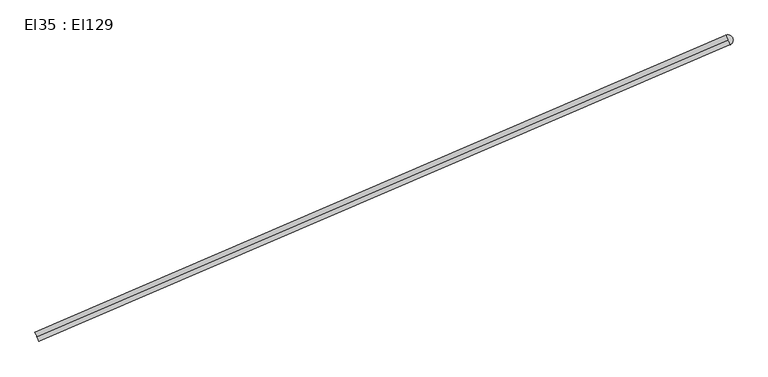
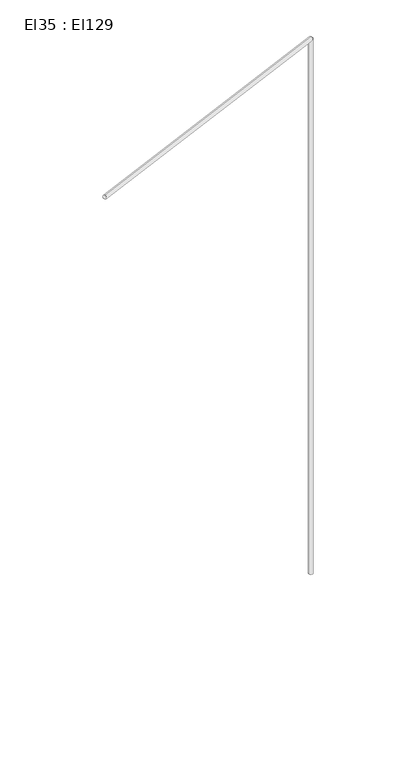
"""IFC4 building model written with IfcOpenShell, lengths in millimetres: cable carrier segment geometry, El35 : El129."""

import ifcopenshell
import ifcopenshell.guid

model = None  # the IFC model being written
_history = None  # IfcOwnerHistory: only IFC2X3 demands one
_inside = {}  # id of a spatial element -> (the spatial element, [elements in it])
_under = {}  # id of a project, library or spatial element -> (it, [spatial elements below it])
_declared = {}  # id of a project -> (the project, [libraries it declares])
_typed = {}  # id of a type object -> (the type object, [elements of that type])
_made_of = {}  # id of a material, layer set ... -> (it, [elements and type objects made of it])


def new_model(schema):
    """Start an empty IFC model of exactly this schema.

    Asked for "IFC4X3", IfcOpenShell would pick the latest addendum, in which some entities
    have other attributes; the version numbers below select the first issue.
    IFC2X3 requires an IfcOwnerHistory on every rooted entity: one is made here for all.
    """
    global model, _history
    if schema == "IFC4X3":
        model = ifcopenshell.file(schema_version=(4, 3, 0, 0))
    else:
        model = ifcopenshell.file(schema=schema)
    _inside.clear()
    _under.clear()
    _declared.clear()
    _typed.clear()
    _made_of.clear()
    _history = None
    if model.schema == "IFC2X3":
        org = make("IfcOrganization", Name="unknown")
        user = make(
            "IfcPersonAndOrganization",
            ThePerson=make("IfcPerson", FamilyName="unknown"),
            TheOrganization=org,
        )
        app = make(
            "IfcApplication",
            ApplicationDeveloper=org,
            Version="unknown",
            ApplicationFullName="unknown",
            ApplicationIdentifier="unknown",
        )
        _history = make(
            "IfcOwnerHistory",
            OwningUser=user,
            OwningApplication=app,
            ChangeAction="ADDED",
            CreationDate=0,
        )
    return model


def make(cls, **values):
    """One entity of the class cls with the attributes given. An attribute that is None is left unset."""
    return model.create_entity(
        cls, **{name: value for name, value in values.items() if value is not None}
    )


def rooted(cls, **values):
    """An entity with a GlobalId (a new one), such as an element, a storey or a relation."""
    return make(cls, GlobalId=ifcopenshell.guid.new(), OwnerHistory=_history, **values)


def si_unit(unit_type, name, prefix=None):
    """IfcSIUnit, for example si_unit("LENGTHUNIT", "METRE", prefix="MILLI")."""
    return make("IfcSIUnit", UnitType=unit_type, Prefix=prefix, Name=name)


def assignment(units):
    """IfcUnitAssignment: the units of a project."""
    return None if units is None else make("IfcUnitAssignment", Units=units)


def point(xyz):
    """IfcCartesianPoint."""
    return None if xyz is None else make("IfcCartesianPoint", Coordinates=xyz)


def direction(xyz):
    """IfcDirection."""
    return None if xyz is None else make("IfcDirection", DirectionRatios=xyz)


def frame(location, z_axis=None, x_axis=None):
    """IfcAxis2Placement3D, a coordinate frame: its origin and axes. An axis left out is left unset."""
    return make(
        "IfcAxis2Placement3D",
        Location=point(location),
        Axis=direction(z_axis),
        RefDirection=direction(x_axis),
    )


def frame_2d(location, x_axis=None):
    """IfcAxis2Placement2D, a coordinate frame in the plane: its origin and x axis."""
    return make(
        "IfcAxis2Placement2D", Location=point(location), RefDirection=direction(x_axis)
    )


def origin():
    """The frame at (0, 0, 0) with its axes left unset."""
    return frame((0.0, 0.0, 0.0))


def place(relative_to, where):
    """IfcLocalPlacement: puts the frame where relative to a parent placement (None: the world)."""
    return make(
        "IfcLocalPlacement", PlacementRelTo=relative_to, RelativePlacement=where
    )


def context(
    kind, dimensions, precision=None, world=None, true_north=None, identifier=None
):
    """IfcGeometricRepresentationContext, for example the 3D "Model" context."""
    return make(
        "IfcGeometricRepresentationContext",
        ContextIdentifier=identifier,
        ContextType=kind,
        CoordinateSpaceDimension=dimensions,
        Precision=precision,
        WorldCoordinateSystem=world,
        TrueNorth=true_north,
    )


def project(units=None, contexts=None):
    """IfcProject with its units and contexts."""
    return rooted(
        "IfcProject",
        Name="project",
        RepresentationContexts=contexts,
        UnitsInContext=assignment(units),
    )


def spatial(cls, under=None, at=None, **own):
    """A site, building, storey or space (cls), placed at a placement, below another one or the project."""
    s = rooted(cls, ObjectPlacement=at, **own)
    if under is not None:
        _under.setdefault(under.id(), (under, []))[1].append(s)
    return s


def circle_curve(where, radius):
    """IfcCircle in the frame where."""
    return make("IfcCircle", Position=where, Radius=radius)


def trimmed(basis, trim1, trim2, sense, master):
    """IfcTrimmedCurve: the piece of a basis curve between two trims."""
    return make(
        "IfcTrimmedCurve",
        BasisCurve=basis,
        Trim1=trim1,
        Trim2=trim2,
        SenseAgreement=sense,
        MasterRepresentation=master,
    )


def segment(curve, same_sense, transition):
    """IfcCompositeCurveSegment."""
    return make(
        "IfcCompositeCurveSegment",
        Transition=transition,
        SameSense=same_sense,
        ParentCurve=curve,
    )


def composite_curve(segments, self_intersect=None):
    """IfcCompositeCurve: segments joined end to end."""
    return make("IfcCompositeCurve", Segments=segments, SelfIntersect=self_intersect)


def outline(outer, holes=None, kind="AREA"):
    """IfcArbitraryClosedProfileDef: a profile drawn as a closed curve; with holes, ...WithVoids."""
    if holes is None:
        return make("IfcArbitraryClosedProfileDef", ProfileType=kind, OuterCurve=outer)
    return make(
        "IfcArbitraryProfileDefWithVoids",
        ProfileType=kind,
        OuterCurve=outer,
        InnerCurves=holes,
    )


def extrude(swept, where, along, depth):
    """IfcExtrudedAreaSolid: the profile swept, set in the frame where, extruded along a direction by depth."""
    return make(
        "IfcExtrudedAreaSolid",
        SweptArea=swept,
        Position=where,
        ExtrudedDirection=direction(along),
        Depth=depth,
    )


def shape(context_of_items, identifier, shape_type, items):
    """IfcShapeRepresentation: the items that make up one representation, for example the "Body"."""
    return make(
        "IfcShapeRepresentation",
        ContextOfItems=context_of_items,
        RepresentationIdentifier=identifier,
        RepresentationType=shape_type,
        Items=items,
    )


def source(mapping_origin, context_of_items, identifier, shape_type, items):
    """IfcRepresentationMap: a shape defined once, which mapped items show again and again."""
    return make(
        "IfcRepresentationMap",
        MappingOrigin=mapping_origin,
        MappedRepresentation=shape(context_of_items, identifier, shape_type, items),
    )


def transform(
    local_origin,
    x_axis=None,
    y_axis=None,
    z_axis=None,
    scale=None,
    scale2=None,
    scale3=None,
    uniform=True,
):
    """IfcCartesianTransformationOperator3D, or its non-uniform kind. x_axis, y_axis, z_axis: its Axis1, 2, 3."""
    if uniform:
        return make(
            "IfcCartesianTransformationOperator3D",
            Axis1=direction(x_axis),
            Axis2=direction(y_axis),
            LocalOrigin=point(local_origin),
            Scale=scale,
            Axis3=direction(z_axis),
        )
    return make(
        "IfcCartesianTransformationOperator3DnonUniform",
        Axis1=direction(x_axis),
        Axis2=direction(y_axis),
        LocalOrigin=point(local_origin),
        Scale=scale,
        Axis3=direction(z_axis),
        Scale2=scale2,
        Scale3=scale3,
    )


def mapped(mapping_source, mapping_target):
    """IfcMappedItem: shows the shape of a source again, moved by a transform."""
    return make(
        "IfcMappedItem", MappingSource=mapping_source, MappingTarget=mapping_target
    )


def made_of(thing, what):
    """Note that an element or type object is made of a material, layer set ...; save() writes the relation."""
    if what is not None:
        _made_of.setdefault(what.id(), (what, []))[1].append(thing)
    return thing


def element(
    cls,
    number,
    at=None,
    inside=None,
    cuts=None,
    type_object=None,
    material=None,
    context=None,
    identifier="Body",
    shape_type=None,
    held_by="IfcProductDefinitionShape",
    body=None,
    shapes=None,
    **own,
):
    """One element of the class cls, such as IfcWall. Its Tag is "e" and its number.

    at: its placement. inside: the storey or other place that contains it. cuts: it is an
    opening in that element (IfcRelVoidsElement). A single representation is given by context,
    identifier, shape_type and body (its items); several are given by shapes. held_by: the class
    of the entity that holds the representations. save() writes the other relations.
    """
    e = rooted(cls, Tag="e%d" % number, ObjectPlacement=at, **own)
    if body is not None:
        shapes = [shape(context, identifier, shape_type, body)]
    if shapes is not None:
        e.Representation = make(held_by, Representations=shapes)
    if inside is not None:
        _inside.setdefault(inside.id(), (inside, []))[1].append(e)
    if cuts is not None:
        rooted(
            "IfcRelVoidsElement", RelatingBuildingElement=cuts, RelatedOpeningElement=e
        )
    if type_object is not None:
        _typed.setdefault(type_object.id(), (type_object, []))[1].append(e)
    return made_of(e, material)


def aggregate(whole, parts):
    """IfcRelAggregates: a whole, such as a stair, and the parts it consists of."""
    return rooted("IfcRelAggregates", RelatingObject=whole, RelatedObjects=parts)


def save(model, path):
    """Write the relations noted so far, then the file.

    IfcRelAggregates (storeys below a building ...), IfcRelContainedInSpatialStructure (elements
    in a storey), IfcRelDefinesByType, IfcRelAssociatesMaterial and IfcRelDeclares: one each for
    every whole, place, type object, material and project.
    """
    for whole, parts in _under.values():
        aggregate(whole, parts)
    for where, things in _inside.values():
        rooted(
            "IfcRelContainedInSpatialStructure",
            RelatedElements=things,
            RelatingStructure=where,
        )
    for kind, things in _typed.values():
        rooted("IfcRelDefinesByType", RelatedObjects=things, RelatingType=kind)
    for what, things in _made_of.values():
        rooted("IfcRelAssociatesMaterial", RelatedObjects=things, RelatingMaterial=what)
    for by, libraries in _declared.values():
        rooted("IfcRelDeclares", RelatingContext=by, RelatedDefinitions=libraries)
    model.write(path)


def el35_el129_0dc89ffc(model_context):
    return source(origin(), model_context, "Body", "SweptSolid", [
        extrude(outline(composite_curve([segment(trimmed(circle_curve(frame_2d((27744.4376511, 2870.1221745)), 9.5), [point((27734.9376511, 2870.1221745))], [point((27753.9376511, 2870.1221745))], False, "CARTESIAN"), True, "CONTINUOUS"), segment(trimmed(circle_curve(frame_2d((27744.4376511, 2870.1221745)), 9.5), [point((27753.9376511, 2870.1221745))], [point((27734.9376511, 2870.1221745))], False, "CARTESIAN"), True, "CONTINUOUS")], self_intersect=False)), frame((0.0, 0.0, 1830.0), z_axis=(0.0, 0.0, 1.0), x_axis=(1.0, 0.0, 0.0)), (0.0, 0.0, 1.0), 2620.0),
        extrude(outline(composite_curve([segment(trimmed(circle_curve(frame_2d((0.0, -9.5)), 9.5), [point((0.0, -19.0))], [point((0.0, 0.0))], False, "CARTESIAN"), True, "CONTINUOUS"), segment(trimmed(circle_curve(frame_2d((0.0, -9.5)), 9.5), [point((0.0, 0.0))], [point((0.0, -19.0))], False, "CARTESIAN"), True, "CONTINUOUS")], self_intersect=False)), frame((26472.1656511, 2322.9291745, 4459.5), z_axis=(0.9186389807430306, 0.3950979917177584, 0.0), x_axis=(-0.3950979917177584, 0.9186389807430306, 0.0)), (0.0, 0.0, 1.0), 1384.95),
    ])


if __name__ == "__main__":
    model = new_model("IFC4")
    model_context = context("Model", 3, world=origin())
    ifc_project = project(units=[si_unit("LENGTHUNIT", "METRE", prefix="MILLI")], contexts=[model_context])
    site = spatial("IfcSite", under=ifc_project)
    building = spatial("IfcBuilding", under=site)
    placement = place(None, origin())
    el35_el129_shape = el35_el129_0dc89ffc(model_context)
    element("IfcCableCarrierSegment", 1, ObjectType="El35 : El129", at=placement, inside=building, context=model_context, shape_type="MappedRepresentation", body=[
        mapped(el35_el129_shape, transform((0.0, 0.0, 0.0), x_axis=(1.0, 0.0, 0.0), y_axis=(0.0, 1.0, 0.0), z_axis=(0.0, 0.0, 1.0))),
    ])
    save(model, "model.ifc")
